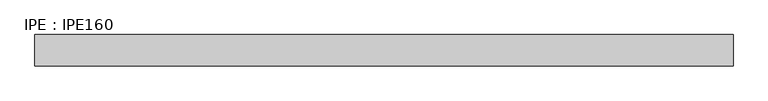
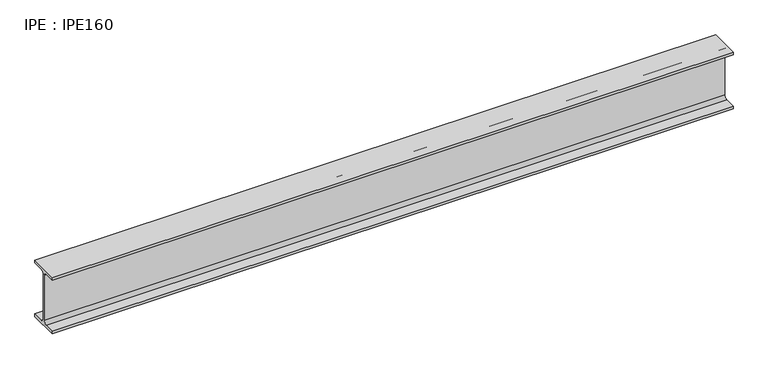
"""IFC4 building model written with IfcOpenShell, lengths in millimetres: beam geometry, IPE : IPE160."""

from ifc_helpers import new_model, si_unit, point, frame, frame_2d, origin, place, context, project, spatial, polyline, circle_curve, trimmed, segment, composite_curve, outline, extrude, source, transform, mapped, element, save


def ipe_ipe160_9e68546f(model_context):
    return source(origin(), model_context, "Body", "SweptSolid", [
        extrude(outline(composite_curve([segment(polyline([(41.0, -72.6), (41.0, -80.0), (-41.0, -80.0), (-41.0, -72.6), (-11.5, -72.6)]), True, "CONTINUOUS"), segment(trimmed(circle_curve(frame_2d((-11.5, -63.6)), 9.0), [point((-11.5, -72.6))], [point((-2.5, -63.6))], True, "CARTESIAN"), True, "CONTINUOUS"), segment(polyline([(-2.5, -63.6), (-2.5, 63.6)]), True, "CONTINUOUS"), segment(trimmed(circle_curve(frame_2d((-11.5, 63.6)), 9.0), [point((-2.5, 63.6))], [point((-11.5, 72.6))], True, "CARTESIAN"), True, "CONTINUOUS"), segment(polyline([(-11.5, 72.6), (-41.0, 72.6), (-41.0, 80.0), (41.0, 80.0), (41.0, 72.6), (11.5, 72.6)]), True, "CONTINUOUS"), segment(trimmed(circle_curve(frame_2d((11.5, 63.6)), 9.0), [point((11.5, 72.6))], [point((2.5, 63.6))], True, "CARTESIAN"), True, "CONTINUOUS"), segment(polyline([(2.5, 63.6), (2.5, -63.6)]), True, "CONTINUOUS"), segment(trimmed(circle_curve(frame_2d((11.5, -63.6)), 9.0), [point((2.5, -63.6))], [point((11.5, -72.6))], True, "CARTESIAN"), True, "CONTINUOUS"), segment(polyline([(11.5, -72.6), (41.0, -72.6)]), True, "CONTINUOUS")], self_intersect=False)), frame((-872.75, 0.0, 0.0), z_axis=(1.0, 0.0, 0.0), x_axis=(0.0, 1.0, 0.0)), (0.0, 0.0, 1.0), 1831.7),
    ])


if __name__ == "__main__":
    model = new_model("IFC4")
    model_context = context("Model", 3, world=origin())
    ifc_project = project(units=[si_unit("LENGTHUNIT", "METRE", prefix="MILLI")], contexts=[model_context])
    site = spatial("IfcSite", under=ifc_project)
    building = spatial("IfcBuilding", under=site)
    placement = place(None, origin())
    ipe_ipe160_shape = ipe_ipe160_9e68546f(model_context)
    element("IfcBeam", 1, ObjectType="IPE : IPE160", at=placement, inside=building, context=model_context, shape_type="MappedRepresentation", body=[
        mapped(ipe_ipe160_shape, transform((0.0, 0.0, 0.0), x_axis=(1.0, 0.0, 0.0), y_axis=(0.0, 1.0, 0.0), z_axis=(0.0, 0.0, 1.0))),
    ])
    save(model, "model.ifc")
